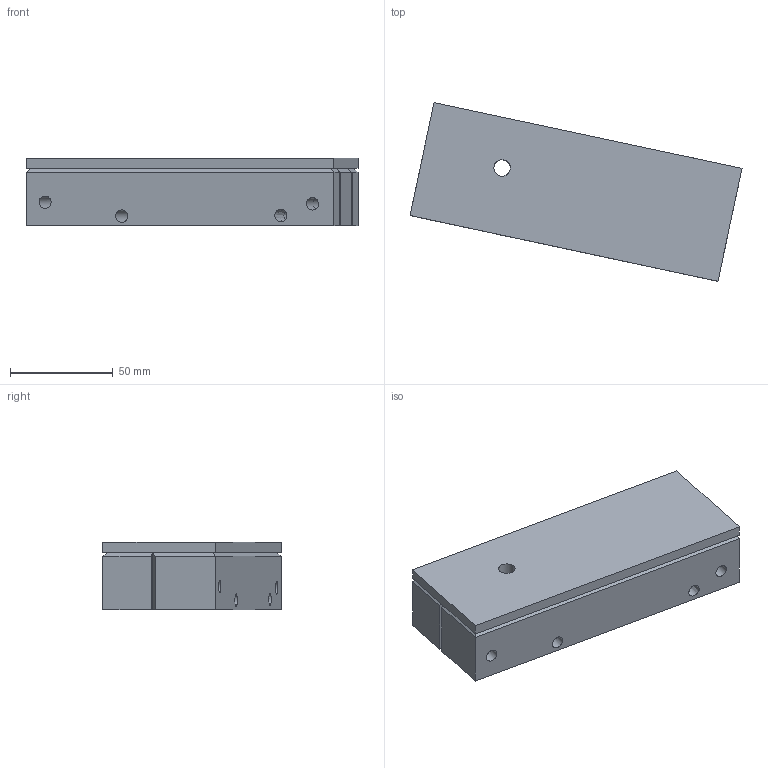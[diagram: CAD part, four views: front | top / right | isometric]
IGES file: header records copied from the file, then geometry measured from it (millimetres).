
Global section: file name: MK5_Forged_Front_Arm_All; native system: unknown; preprocessor: unknown; author: unknown; organization: unknown; date: 20240418.083118; units: millimetre
Bounding box: 161.46 x 86.82 x 33 mm (x, y, z)
Volume: 273338.4 mm3; surface area: 73050.2 mm2
Topology: 5 solids, 5 shells, 514 faces, 1406 edges, 900 vertices
Faces by surface type: bspline 514
